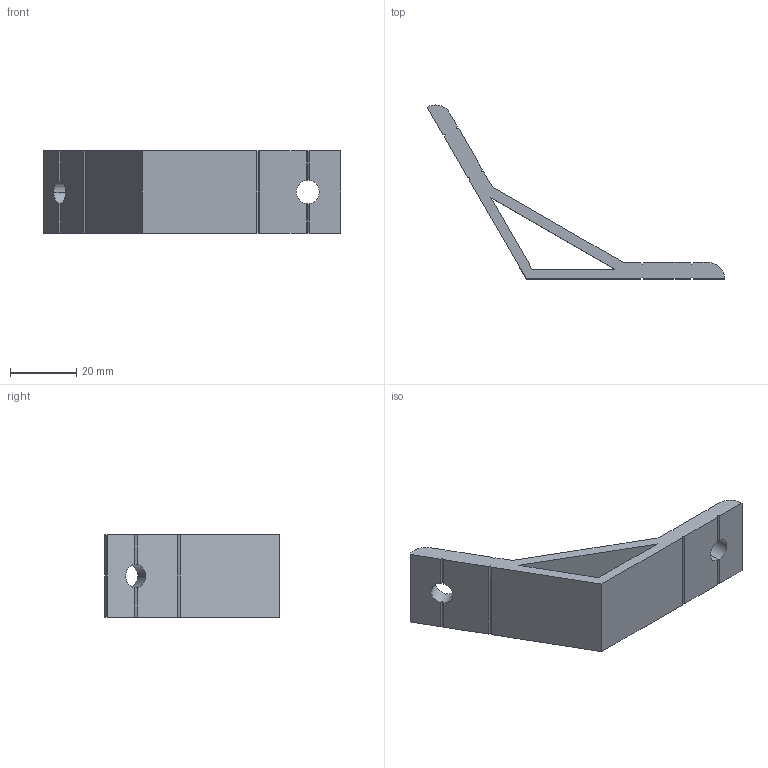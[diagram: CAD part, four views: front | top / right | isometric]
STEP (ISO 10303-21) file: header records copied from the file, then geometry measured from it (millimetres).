
FILE_DESCRIPTION (( 'STEP AP203' ), '1' );
FILE_NAME ('DALV12025-6.STEP', '2020-10-14T01:58:58', ( '' ), ( '' ), 'SwSTEP 2.0', 'SolidWorks 2017', '' );
FILE_SCHEMA (( 'CONFIG_CONTROL_DESIGN' ));
Length unit declared in the file: millimetre
Products named in the file (1): DALV12025-6
Bounding box: 90 x 52.63 x 25 mm (x, y, z)
Volume: 14711.3 mm3; surface area: 9496.6 mm2
Topology: 1 solids, 1 shells, 48 faces, 146 edges, 96 vertices
Faces by surface type: plane 42, cylinder 6
Entity records: 1703 total; most frequent: CARTESIAN_POINT 339, ORIENTED_EDGE 292, DIRECTION 244, EDGE_CURVE 146, VECTOR 114, LINE 114, VERTEX_POINT 96, AXIS2_PLACEMENT_3D 65
